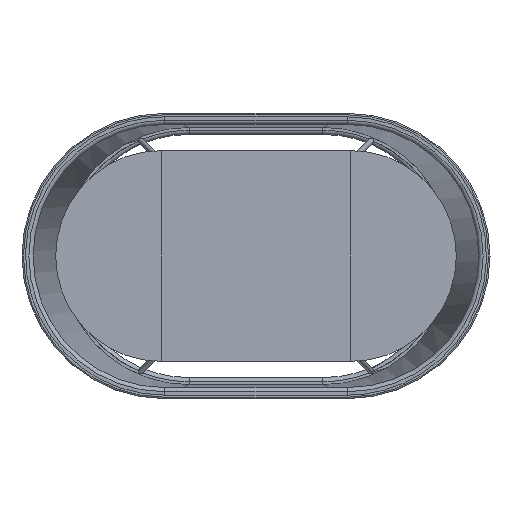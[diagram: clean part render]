
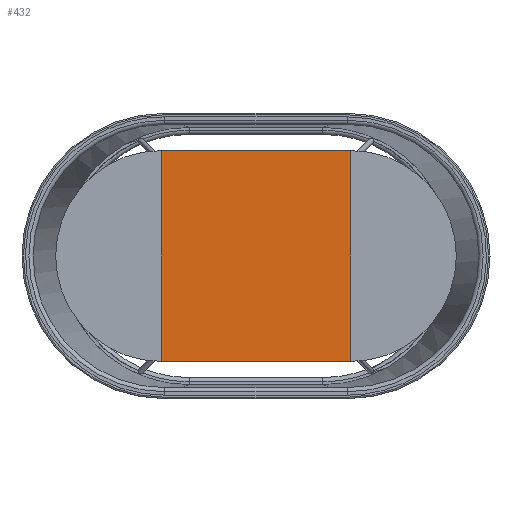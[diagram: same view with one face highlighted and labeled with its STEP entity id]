
A CAD part, front view. The second image highlights one B-rep face of the part: STEP entity #432.
In plain terms, the highlighted planar face has unit normal (0, -1, 0).
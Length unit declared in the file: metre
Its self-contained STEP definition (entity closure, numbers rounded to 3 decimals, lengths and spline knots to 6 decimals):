
#432 = ADVANCED_FACE( '', ( #960 ), #961, .T. );
#960 = FACE_OUTER_BOUND( '', #1917, .T. );
#961 = PLANE( '', #1918 );
#1917 = EDGE_LOOP( '', ( #3811, #3812, #3813, #3814 ) );
#1918 = AXIS2_PLACEMENT_3D( '', #3815, #3816, #3817 );
#3811 = ORIENTED_EDGE( '', *, *, #5469, .F. );
#3812 = ORIENTED_EDGE( '', *, *, #5468, .F. );
#3813 = ORIENTED_EDGE( '', *, *, #5386, .F. );
#3814 = ORIENTED_EDGE( '', *, *, #5346, .T. );
#3815 = CARTESIAN_POINT( '', ( 65.277129, 11.110226, 0.05591 ) );
#3816 = DIRECTION( '', ( 0., -1., 0. ) );
#3817 = DIRECTION( '', ( 0., 0., -1. ) );
#5346 = EDGE_CURVE( '', #6876, #6873, #6877, .T. );
#5386 = EDGE_CURVE( '', #6876, #6946, #6947, .T. );
#5468 = EDGE_CURVE( '', #6946, #7041, #7082, .T. );
#5469 = EDGE_CURVE( '', #7041, #6873, #7083, .T. );
#6873 = VERTEX_POINT( '', #8042 );
#6876 = VERTEX_POINT( '', #8046 );
#6877 = LINE( '', #8047, #8048 );
#6946 = VERTEX_POINT( '', #8134 );
#6947 = LINE( '', #8135, #8136 );
#7041 = VERTEX_POINT( '', #8246 );
#7082 = LINE( '', #8300, #8301 );
#7083 = LINE( '', #8302, #8303 );
#8042 = CARTESIAN_POINT( '', ( 65.209629, 11.110226, -0.075 ) );
#8046 = CARTESIAN_POINT( '', ( 65.209629, 11.110226, 0.075 ) );
#8047 = CARTESIAN_POINT( '', ( 65.209629, 11.110226, 0.05591 ) );
#8048 = VECTOR( '', #10388, 1. );
#8134 = CARTESIAN_POINT( '', ( 65.344629, 11.110226, 0.075 ) );
#8135 = CARTESIAN_POINT( '', ( 65.243379, 11.110226, 0.075 ) );
#8136 = VECTOR( '', #10472, 1. );
#8246 = CARTESIAN_POINT( '', ( 65.344629, 11.110226, -0.075 ) );
#8300 = CARTESIAN_POINT( '', ( 65.344629, 11.110226, 0.05591 ) );
#8301 = VECTOR( '', #10658, 1. );
#8302 = CARTESIAN_POINT( '', ( 65.310879, 11.110226, -0.075 ) );
#8303 = VECTOR( '', #10659, 1. );
#10388 = DIRECTION( '', ( 0., 0., -1. ) );
#10472 = DIRECTION( '', ( 1., 0., 0. ) );
#10658 = DIRECTION( '', ( 0., 0., -1. ) );
#10659 = DIRECTION( '', ( -1., 0., 0. ) );
